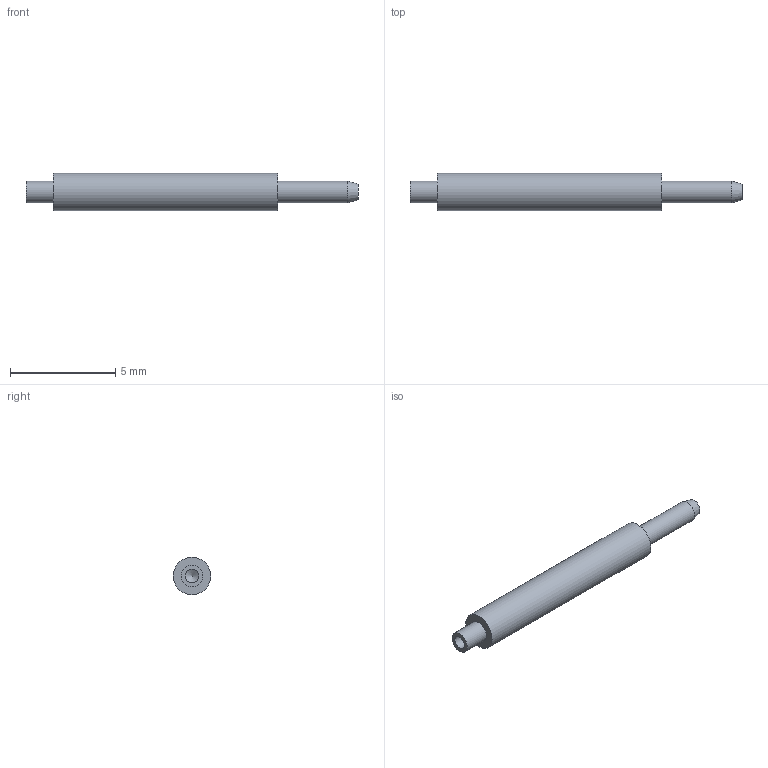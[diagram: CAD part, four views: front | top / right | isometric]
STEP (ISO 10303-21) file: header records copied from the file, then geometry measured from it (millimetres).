
FILE_DESCRIPTION(/* description */ (''),/* implementation_level */ '2;1');
FILE_NAME(/* name */ 'Z:\STEP folder\460262801.ipt.stp',/* time_stamp */ '2016-12-21T13:04:23+00:00',/* author */ ('Paul Karlsons'),/* organization */ (''),/* preprocessor_version */ 'ST-DEVELOPER v15.2',/* originating_system */ 'Autodesk Inventor 2014',/* authorisation */ '');
FILE_SCHEMA (('AUTOMOTIVE_DESIGN { 1 0 10303 214 3 1 1 }'));
Length unit declared in the file: millimetre
Products named in the file (1): 460262801
Bounding box: 15.78 x 1.78 x 1.78 mm (x, y, z)
Volume: 30.2 mm3; surface area: 82.4 mm2
Topology: 1 solids, 1 shells, 10 faces, 16 edges, 10 vertices
Faces by surface type: cylinder 4, plane 4, cone 2
Full cylindrical faces by diameter (mm): 0.635 x1, 1.016 x2, 1.778 x1
Entity records: 215 total; most frequent: DIRECTION 40, CARTESIAN_POINT 29, AXIS2_PLACEMENT_3D 20, EDGE_LOOP 18, ORIENTED_EDGE 18, FACE_BOUND 10, ADVANCED_FACE 10, CIRCLE 9
